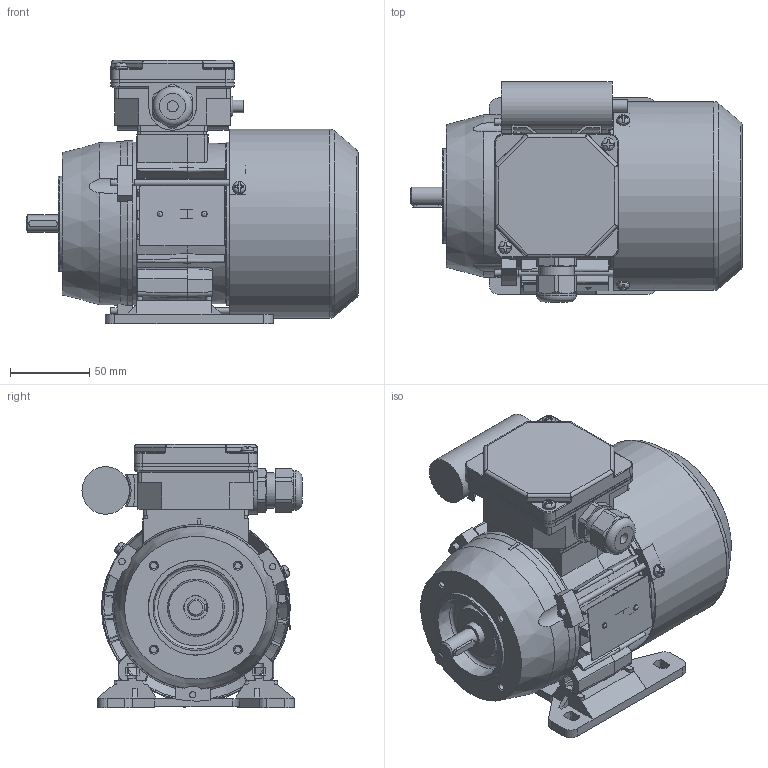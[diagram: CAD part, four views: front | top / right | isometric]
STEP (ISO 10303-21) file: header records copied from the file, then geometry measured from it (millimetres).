
FILE_DESCRIPTION(/* description */ ('Unknown'),/* implementation_level */ '2;1');
FILE_NAME(/* name */ '3SSIEL63-2A2',/* time_stamp */ '2024-06-28T11:26:25+02:00',/* author */ ('Unknown'),/* organization */ ('Unknown'),/* preprocessor_version */ 'ST-DEVELOPER v16.7',/* originating_system */ 'Solid Edge',/* authorisation */ 'Unknown');
FILE_SCHEMA (('AUTOMOTIVE_DESIGN {1 0 10303 214 3 1 1}'));
Length unit declared in the file: millimetre
Products named in the file (1): Czêœæ11
Bounding box: 209.49 x 138.82 x 166 mm (x, y, z)
Volume: 594484.4 mm3; surface area: 341331.3 mm2
Topology: 3 solids, 3 shells, 1984 faces, 5615 edges, 3657 vertices
Faces by surface type: plane 1040, cylinder 583, cone 126, torus 120, bspline 94, sphere 21
Full cylindrical faces by diameter (mm): 2.4 x2, 3 x1, 3.7 x7, 4 x8, 4.134 x4, 4.5 x5, 4.6 x1, 4.8 x2, 5 x2, 5.8 x4, 6.5 x1, 7 x4, 7.999 x1, 8 x6, 10.999 x1, 12.899 x1, 13.099 x1, 14.998 x2, 15.4 x2, 18.998 x2, 19.498 x1, 19.998 x1, 20.098 x1, 21.518 x4, 22.3 x1, 25 x1, 28 x2, 28.48 x4, 29.997 x1, 31 x2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
Entity records: 80393 total; most frequent: CARTESIAN_POINT 16938, ORIENTED_EDGE 10582, DIRECTION 9885, EDGE_CURVE 5291, AXIS2_PLACEMENT_3D 3603, VERTEX_POINT 3540, LINE 2679, VECTOR 2679
